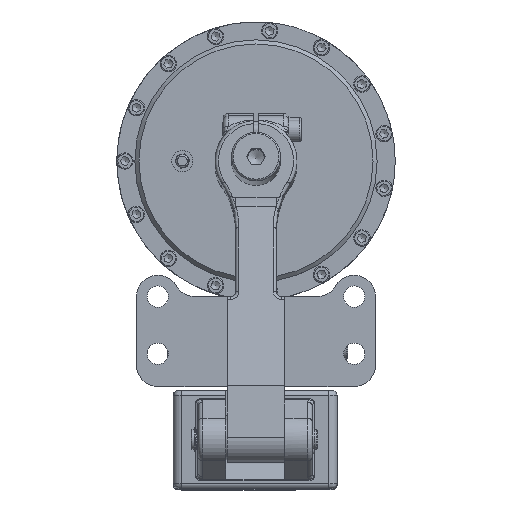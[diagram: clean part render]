
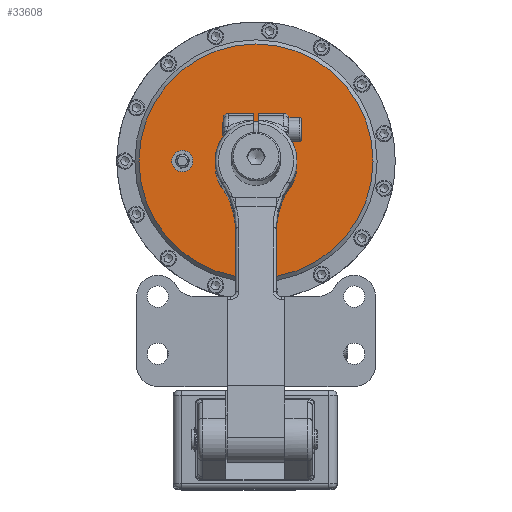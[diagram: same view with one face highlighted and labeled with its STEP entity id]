
A CAD part, top view. The second image highlights one B-rep face of the part: STEP entity #33608.
In plain terms, the highlighted planar face has unit normal (0, 0, 1).
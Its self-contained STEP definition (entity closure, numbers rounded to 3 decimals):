
#2348=FACE_BOUND('',#7578,.T.);
#2349=FACE_BOUND('',#7579,.T.);
#2624=PLANE('',#36292);
#5625=FACE_OUTER_BOUND('',#7577,.T.);
#7577=EDGE_LOOP('',(#27355));
#7578=EDGE_LOOP('',(#27356,#27357));
#7579=EDGE_LOOP('',(#27358,#27359));
#9727=CIRCLE('',#36269,15.);
#9728=CIRCLE('',#36270,15.);
#9737=CIRCLE('',#36281,6.5);
#9738=CIRCLE('',#36282,6.5);
#9744=CIRCLE('',#36291,71.5);
#15378=VERTEX_POINT('',#68081);
#15379=VERTEX_POINT('',#68082);
#15396=VERTEX_POINT('',#68121);
#15397=VERTEX_POINT('',#68122);
#15403=VERTEX_POINT('',#68140);
#19594=EDGE_CURVE('',#15378,#15379,#9727,.T.);
#19595=EDGE_CURVE('',#15379,#15378,#9728,.T.);
#19614=EDGE_CURVE('',#15396,#15397,#9737,.T.);
#19615=EDGE_CURVE('',#15397,#15396,#9738,.T.);
#19624=EDGE_CURVE('',#15403,#15403,#9744,.T.);
#27355=ORIENTED_EDGE('',*,*,#19624,.F.);
#27356=ORIENTED_EDGE('',*,*,#19614,.T.);
#27357=ORIENTED_EDGE('',*,*,#19615,.T.);
#27358=ORIENTED_EDGE('',*,*,#19594,.T.);
#27359=ORIENTED_EDGE('',*,*,#19595,.T.);
#33608=ADVANCED_FACE('',(#5625,#2348,#2349),#2624,.T.);
#36269=AXIS2_PLACEMENT_3D('',#68083,#41956,#41957);
#36270=AXIS2_PLACEMENT_3D('',#68084,#41958,#41959);
#36281=AXIS2_PLACEMENT_3D('',#68123,#41990,#41991);
#36282=AXIS2_PLACEMENT_3D('',#68124,#41992,#41993);
#36291=AXIS2_PLACEMENT_3D('',#68142,#42013,#42014);
#36292=AXIS2_PLACEMENT_3D('',#68143,#42015,#42016);
#41956=DIRECTION('center_axis',(0.,0.,
-1.));
#41957=DIRECTION('ref_axis',(1.,0.,0.));
#41958=DIRECTION('center_axis',(0.,0.,
-1.));
#41959=DIRECTION('ref_axis',(1.,0.,0.));
#41990=DIRECTION('center_axis',(0.,0.,
-1.));
#41991=DIRECTION('ref_axis',(0.,-1.,0.));
#41992=DIRECTION('center_axis',(0.,0.,
-1.));
#41993=DIRECTION('ref_axis',(0.,-1.,0.));
#42013=DIRECTION('center_axis',(0.,0.,
-1.));
#42014=DIRECTION('ref_axis',(-1.,0.,0.));
#42015=DIRECTION('center_axis',(0.,0.,
1.));
#42016=DIRECTION('ref_axis',(0.,-1.,0.));
#68081=CARTESIAN_POINT('',(62.,140.,-50.85));
#68082=CARTESIAN_POINT('',(32.,140.,-50.85));
#68083=CARTESIAN_POINT('Origin',(47.,140.,-50.85));
#68084=CARTESIAN_POINT('Origin',(47.,140.,-50.85));
#68121=CARTESIAN_POINT('',(2.,133.5,-50.85));
#68122=CARTESIAN_POINT('',(2.,146.5,-50.85));
#68123=CARTESIAN_POINT('Origin',(2.,140.,-50.85));
#68124=CARTESIAN_POINT('Origin',(2.,140.,-50.85));
#68140=CARTESIAN_POINT('',(118.5,140.,-50.85));
#68142=CARTESIAN_POINT('Origin',(47.,140.,-50.85));
#68143=CARTESIAN_POINT('Origin',(91.5,140.,-50.85));
